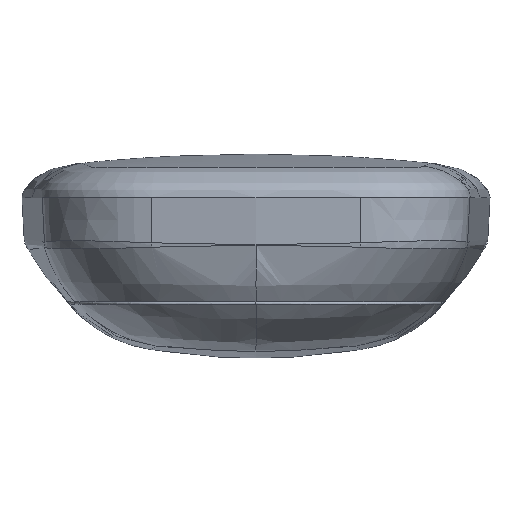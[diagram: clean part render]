
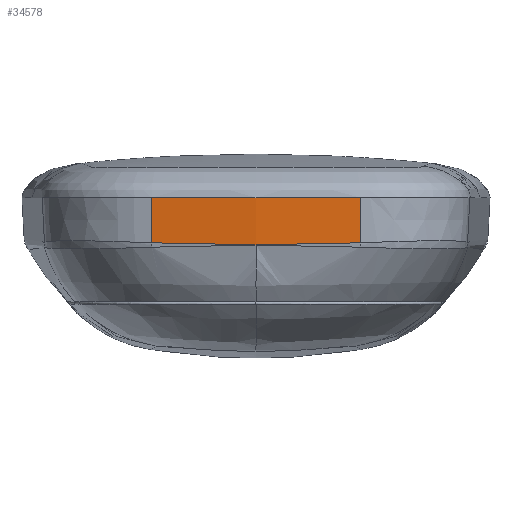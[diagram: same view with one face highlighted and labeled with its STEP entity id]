
A CAD part, front view. The second image highlights one B-rep face of the part: STEP entity #34578.
In plain terms, the highlighted conical face has half-angle 3 degrees and reference radius 102.5 mm.
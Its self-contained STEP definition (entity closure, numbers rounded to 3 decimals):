
#997 = EDGE_CURVE ( 'NONE', #59041, #65030, #15043, .T. ) ;
#2697 = CARTESIAN_POINT ( 'NONE',  ( 7.405, -78.299, 7. ) ) ;
#3428 = CARTESIAN_POINT ( 'NONE',  ( 1.848, -78.239, 2.018 ) ) ;
#3905 = DIRECTION ( 'NONE',  ( 0.006, 0.052, -0.999 ) ) ;
#4161 = CARTESIAN_POINT ( 'NONE',  ( -9.221, -77.832, 2.181 ) ) ;
#5794 = CARTESIAN_POINT ( 'NONE',  ( 0., 24., 7. ) ) ;
#9106 = CARTESIAN_POINT ( 'NONE',  ( 6.46, -78.044, 2.115 ) ) ;
#9695 = EDGE_CURVE ( 'NONE', #59041, #54403, #42993, .T. ) ;
#10214 = VERTEX_POINT ( 'NONE', #48603 ) ;
#11852 = EDGE_CURVE ( 'NONE', #10214, #46781, #44608, .T. ) ;
#12420 = ORIENTED_EDGE ( 'NONE', *, *, #69322, .T. ) ;
#12802 = EDGE_CURVE ( 'NONE', #65030, #46781, #70921, .T. ) ;
#12811 = VECTOR ( 'NONE', #3905, 1000. ) ;
#15043 = LINE ( 'NONE', #78898, #53776 ) ;
#16126 = CARTESIAN_POINT ( 'NONE',  ( 3.695, -78.191, 2.053 ) ) ;
#16147 = CARTESIAN_POINT ( 'NONE',  ( -11.086, -77.899, 7. ) ) ;
#17412 = CARTESIAN_POINT ( 'NONE',  ( -7.381, -77.983, 2.137 ) ) ;
#18436 = VERTEX_POINT ( 'NONE', #27795 ) ;
#20545 = ORIENTED_EDGE ( 'NONE', *, *, #43480, .F. ) ;
#20821 = CARTESIAN_POINT ( 'NONE',  ( 0., -78.5, 7. ) ) ;
#22550 = CARTESIAN_POINT ( 'NONE',  ( -11.058, -77.65, 2.228 ) ) ;
#23082 = CARTESIAN_POINT ( 'NONE',  ( -10.599, -77.698, 2.215 ) ) ;
#25839 = DIRECTION ( 'NONE',  ( -0.006, 0.052, -0.999 ) ) ;
#26715 = B_SPLINE_CURVE_WITH_KNOTS ( 'NONE', 3,
 ( #16147, #71881, #53985, #41005 ),
 .UNSPECIFIED., .F., .F.,
 ( 4, 4 ),
 ( 0., 1. ),
 .UNSPECIFIED. ) ;
#27795 = CARTESIAN_POINT ( 'NONE',  ( -11.086, -77.899, 7. ) ) ;
#28196 = CARTESIAN_POINT ( 'NONE',  ( 0., -78.5, 7. ) ) ;
#29307 = LINE ( 'NONE', #53136, #12811 ) ;
#30463 = CARTESIAN_POINT ( 'NONE',  ( 0., -78.239, 2.019 ) ) ;
#31493 = CONICAL_SURFACE ( 'NONE', #77532, 102.5, 0.052 ) ;
#34525 = CARTESIAN_POINT ( 'NONE',  ( 9.91, -77.767, 2.198 ) ) ;
#34578 = ADVANCED_FACE ( 'NONE', ( #61502 ), #31493, .T. ) ;
#34794 = CARTESIAN_POINT ( 'NONE',  ( 10.599, -77.698, 2.215 ) ) ;
#35518 = CARTESIAN_POINT ( 'NONE',  ( -1.848, -78.239, 2.018 ) ) ;
#35792 = CARTESIAN_POINT ( 'NONE',  ( -10.14, -77.745, 2.204 ) ) ;
#37006 = ORIENTED_EDGE ( 'NONE', *, *, #12802, .F. ) ;
#40722 = CARTESIAN_POINT ( 'NONE',  ( 10.14, -77.745, 2.204 ) ) ;
#41005 = CARTESIAN_POINT ( 'NONE',  ( 0., -78.5, 7. ) ) ;
#42907 = EDGE_LOOP ( 'NONE', ( #12420, #75141, #37006, #59538, #55250, #20545 ) ) ;
#42993 = B_SPLINE_CURVE_WITH_KNOTS ( 'NONE', 3,
 ( #58133, #2697, #46727, #20821 ),
 .UNSPECIFIED., .F., .F.,
 ( 4, 4 ),
 ( 0., 1. ),
 .UNSPECIFIED. ) ;
#43082 = DIRECTION ( 'NONE',  ( -1., 0., 0. ) ) ;
#43480 = EDGE_CURVE ( 'NONE', #18436, #54403, #26715, .T. ) ;
#44608 = B_SPLINE_CURVE_WITH_KNOTS ( 'NONE', 3,
 ( #22550, #72858, #60121, #23082, #79376, #35792, #60664, #4161, #47131, #17412, #78843, #72326, #35518, #72594 ),
 .UNSPECIFIED., .F., .F.,
 ( 4, 2, 2, 2, 2, 2, 4 ),
 ( 0., 0., 0.001, 0.001, 0.003, 0.006, 0.011 ),
 .UNSPECIFIED. ) ;
#46110 = CARTESIAN_POINT ( 'NONE',  ( 10.484, -77.71, 2.212 ) ) ;
#46727 = CARTESIAN_POINT ( 'NONE',  ( 3.702, -78.5, 7. ) ) ;
#46781 = VERTEX_POINT ( 'NONE', #30463 ) ;
#46856 = CARTESIAN_POINT ( 'NONE',  ( 11.086, -77.899, 7. ) ) ;
#46921 = CARTESIAN_POINT ( 'NONE',  ( 7.381, -77.983, 2.137 ) ) ;
#47131 = CARTESIAN_POINT ( 'NONE',  ( -8.761, -77.872, 2.169 ) ) ;
#48603 = CARTESIAN_POINT ( 'NONE',  ( -11.058, -77.65, 2.228 ) ) ;
#52923 = CARTESIAN_POINT ( 'NONE',  ( 10.829, -77.675, 2.221 ) ) ;
#53136 = CARTESIAN_POINT ( 'NONE',  ( -11.086, -77.899, 7. ) ) ;
#53776 = VECTOR ( 'NONE', #25839, 1000. ) ;
#53985 = CARTESIAN_POINT ( 'NONE',  ( -3.706, -78.5, 7. ) ) ;
#54403 = VERTEX_POINT ( 'NONE', #28196 ) ;
#55250 = ORIENTED_EDGE ( 'NONE', *, *, #9695, .T. ) ;
#58133 = CARTESIAN_POINT ( 'NONE',  ( 11.086, -77.899, 7. ) ) ;
#59041 = VERTEX_POINT ( 'NONE', #46856 ) ;
#59538 = ORIENTED_EDGE ( 'NONE', *, *, #997, .F. ) ;
#60121 = CARTESIAN_POINT ( 'NONE',  ( -10.829, -77.675, 2.221 ) ) ;
#60664 = CARTESIAN_POINT ( 'NONE',  ( -9.91, -77.767, 2.198 ) ) ;
#61502 = FACE_OUTER_BOUND ( 'NONE', #42907, .T. ) ;
#61705 = CARTESIAN_POINT ( 'NONE',  ( 11.058, -77.65, 2.228 ) ) ;
#64817 = CARTESIAN_POINT ( 'NONE',  ( 10.944, -77.662, 2.222 ) ) ;
#65030 = VERTEX_POINT ( 'NONE', #61705 ) ;
#65090 = CARTESIAN_POINT ( 'NONE',  ( 8.761, -77.872, 2.169 ) ) ;
#69322 = EDGE_CURVE ( 'NONE', #18436, #10214, #29307, .T. ) ;
#70921 = B_SPLINE_CURVE_WITH_KNOTS ( 'NONE', 3,
 ( #77844, #64817, #52923, #34794, #46110, #40722, #34525, #71597, #65090, #46921, #9106, #16126, #3428, #77569 ),
 .UNSPECIFIED., .F., .F.,
 ( 4, 2, 2, 2, 2, 2, 4 ),
 ( 0., 0., 0.001, 0.001, 0.003, 0.006, 0.011 ),
 .UNSPECIFIED. ) ;
#71597 = CARTESIAN_POINT ( 'NONE',  ( 9.221, -77.832, 2.181 ) ) ;
#71881 = CARTESIAN_POINT ( 'NONE',  ( -7.401, -78.3, 7. ) ) ;
#72326 = CARTESIAN_POINT ( 'NONE',  ( -3.695, -78.191, 2.053 ) ) ;
#72594 = CARTESIAN_POINT ( 'NONE',  ( 0., -78.239, 2.019 ) ) ;
#72858 = CARTESIAN_POINT ( 'NONE',  ( -10.944, -77.662, 2.222 ) ) ;
#75141 = ORIENTED_EDGE ( 'NONE', *, *, #11852, .T. ) ;
#77532 = AXIS2_PLACEMENT_3D ( 'NONE', #5794, #80220, #43082 ) ;
#77569 = CARTESIAN_POINT ( 'NONE',  ( 0., -78.239, 2.019 ) ) ;
#77844 = CARTESIAN_POINT ( 'NONE',  ( 11.058, -77.65, 2.228 ) ) ;
#78843 = CARTESIAN_POINT ( 'NONE',  ( -6.46, -78.044, 2.115 ) ) ;
#78898 = CARTESIAN_POINT ( 'NONE',  ( 11.086, -77.899, 7. ) ) ;
#79376 = CARTESIAN_POINT ( 'NONE',  ( -10.484, -77.71, 2.212 ) ) ;
#80220 = DIRECTION ( 'NONE',  ( 0., 0., 1. ) ) ;
